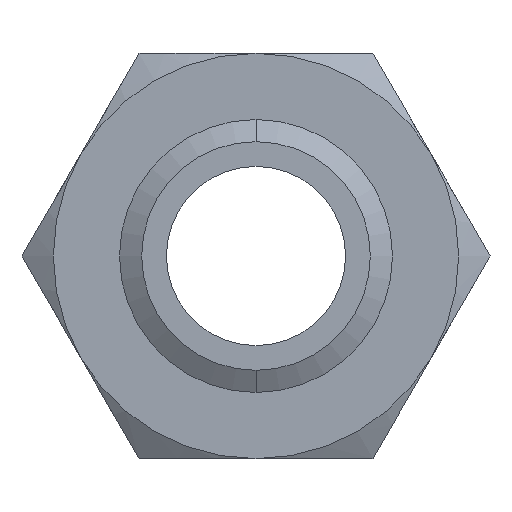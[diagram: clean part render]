
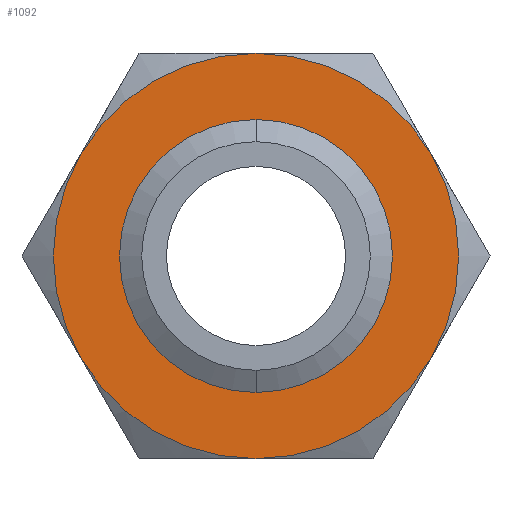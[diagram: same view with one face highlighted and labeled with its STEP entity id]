
A CAD part, front view. The second image highlights one B-rep face of the part: STEP entity #1092.
In plain terms, the highlighted planar face has unit normal (0, -1, 0).
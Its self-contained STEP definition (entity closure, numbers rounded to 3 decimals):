
#238 = EDGE_CURVE ( 'NONE', #239, #240, #823, .T. ) ;
#239 = VERTEX_POINT ( 'NONE', #818 ) ;
#240 = VERTEX_POINT ( 'NONE', #817 ) ;
#817 = CARTESIAN_POINT ( 'NONE',  ( 0., 0., 26.804 ) ) ;
#818 = CARTESIAN_POINT ( 'NONE',  ( 0., 0., -26.804 ) ) ;
#819 = DIRECTION ( 'NONE',  ( 0., 0., -1. ) ) ;
#820 = DIRECTION ( 'NONE',  ( 0., -1., 0. ) ) ;
#821 = CARTESIAN_POINT ( 'NONE',  ( 0., 0., 0. ) ) ;
#822 = AXIS2_PLACEMENT_3D ( 'NONE', #821, #820, #819 ) ;
#823 = CIRCLE ( 'NONE', #822, 26.804 ) ;
#950 = DIRECTION ( 'NONE',  ( 0., 0., 1. ) ) ;
#951 = DIRECTION ( 'NONE',  ( 0., 1., 0. ) ) ;
#952 = CARTESIAN_POINT ( 'NONE',  ( 0., 0., 0. ) ) ;
#953 = AXIS2_PLACEMENT_3D ( 'NONE', #952, #951, #950 ) ;
#954 = CIRCLE ( 'NONE', #953, 47.5 ) ;
#955 = CARTESIAN_POINT ( 'NONE',  ( 0., 0., 47.5 ) ) ;
#956 = CARTESIAN_POINT ( 'NONE',  ( -41.136, 0., -23.75 ) ) ;
#961 = DIRECTION ( 'NONE',  ( 0., 0., 1. ) ) ;
#962 = DIRECTION ( 'NONE',  ( 0., 1., 0. ) ) ;
#963 = CARTESIAN_POINT ( 'NONE',  ( 0., 0., 0. ) ) ;
#964 = AXIS2_PLACEMENT_3D ( 'NONE', #963, #962, #961 ) ;
#965 = CIRCLE ( 'NONE', #964, 47.5 ) ;
#969 = CARTESIAN_POINT ( 'NONE',  ( -41.136, 0., 23.75 ) ) ;
#988 = DIRECTION ( 'NONE',  ( 0., 0., 1. ) ) ;
#989 = DIRECTION ( 'NONE',  ( 0., 1., 0. ) ) ;
#990 = CARTESIAN_POINT ( 'NONE',  ( 27.424, 0., -47.5 ) ) ;
#992 = AXIS2_PLACEMENT_3D ( 'NONE', #990, #989, #988 ) ;
#993 = PLANE ( 'NONE',  #992 ) ;
#994 = FACE_BOUND ( 'NONE', #2252, .T. ) ;
#995 = FACE_OUTER_BOUND ( 'NONE', #1083, .T. ) ;
#1006 = DIRECTION ( 'NONE',  ( 0., 0., 1. ) ) ;
#1007 = DIRECTION ( 'NONE',  ( 0., 1., 0. ) ) ;
#1008 = CARTESIAN_POINT ( 'NONE',  ( 0., 0., 0. ) ) ;
#1009 = AXIS2_PLACEMENT_3D ( 'NONE', #1008, #1007, #1006 ) ;
#1010 = CIRCLE ( 'NONE', #1009, 47.5 ) ;
#1011 = CARTESIAN_POINT ( 'NONE',  ( 41.136, 0., 23.75 ) ) ;
#1073 = ORIENTED_EDGE ( 'NONE', *, *, #1076, .F. ) ;
#1074 = ORIENTED_EDGE ( 'NONE', *, *, #1080, .F. ) ;
#1075 = VERTEX_POINT ( 'NONE', #969 ) ;
#1076 = EDGE_CURVE ( 'NONE', #1079, #1075, #965, .T. ) ;
#1079 = VERTEX_POINT ( 'NONE', #956 ) ;
#1080 = EDGE_CURVE ( 'NONE', #1075, #1081, #954, .T. ) ;
#1081 = VERTEX_POINT ( 'NONE', #955 ) ;
#1082 = VERTEX_POINT ( 'NONE', #1011 ) ;
#1083 = EDGE_LOOP ( 'NONE', ( #1085, #1074, #1073, #2218, #2250, #2248 ) ) ;
#1084 = EDGE_CURVE ( 'NONE', #1081, #1082, #1010, .T. ) ;
#1085 = ORIENTED_EDGE ( 'NONE', *, *, #1084, .F. ) ;
#1092 = ADVANCED_FACE ( 'NONE', ( #995, #994 ), #993, .F. ) ;
#1553 = DIRECTION ( 'NONE',  ( 0., 0., 1. ) ) ;
#1554 = DIRECTION ( 'NONE',  ( 0., 1., 0. ) ) ;
#1555 = CARTESIAN_POINT ( 'NONE',  ( 0., 0., 0. ) ) ;
#1556 = AXIS2_PLACEMENT_3D ( 'NONE', #1555, #1554, #1553 ) ;
#1557 = CIRCLE ( 'NONE', #1556, 47.5 ) ;
#1602 = DIRECTION ( 'NONE',  ( 0., 0., 1. ) ) ;
#1603 = DIRECTION ( 'NONE',  ( 0., 1., 0. ) ) ;
#1604 = CARTESIAN_POINT ( 'NONE',  ( 0., 0., 0. ) ) ;
#1605 = AXIS2_PLACEMENT_3D ( 'NONE', #1604, #1603, #1602 ) ;
#1606 = CIRCLE ( 'NONE', #1605, 47.5 ) ;
#1665 = DIRECTION ( 'NONE',  ( 0., 0., -1. ) ) ;
#1666 = DIRECTION ( 'NONE',  ( 0., -1., 0. ) ) ;
#1667 = CARTESIAN_POINT ( 'NONE',  ( 0., 0., 0. ) ) ;
#1668 = AXIS2_PLACEMENT_3D ( 'NONE', #1667, #1666, #1665 ) ;
#1669 = CIRCLE ( 'NONE', #1668, 26.804 ) ;
#1670 = CARTESIAN_POINT ( 'NONE',  ( 41.136, 0., -23.75 ) ) ;
#1671 = DIRECTION ( 'NONE',  ( 0., 0., 1. ) ) ;
#1672 = DIRECTION ( 'NONE',  ( 0., 1., 0. ) ) ;
#1673 = CARTESIAN_POINT ( 'NONE',  ( 0., 0., 0. ) ) ;
#1674 = AXIS2_PLACEMENT_3D ( 'NONE', #1673, #1672, #1671 ) ;
#1675 = CIRCLE ( 'NONE', #1674, 47.5 ) ;
#1677 = CARTESIAN_POINT ( 'NONE',  ( 0., 0., -47.5 ) ) ;
#2218 = ORIENTED_EDGE ( 'NONE', *, *, #2220, .F. ) ;
#2220 = EDGE_CURVE ( 'NONE', #2268, #1079, #1557, .T. ) ;
#2248 = ORIENTED_EDGE ( 'NONE', *, *, #2254, .F. ) ;
#2250 = ORIENTED_EDGE ( 'NONE', *, *, #2269, .F. ) ;
#2251 = ORIENTED_EDGE ( 'NONE', *, *, #238, .F. ) ;
#2252 = EDGE_LOOP ( 'NONE', ( #2251, #2255 ) ) ;
#2254 = EDGE_CURVE ( 'NONE', #1082, #2270, #1606, .T. ) ;
#2255 = ORIENTED_EDGE ( 'NONE', *, *, #2271, .F. ) ;
#2268 = VERTEX_POINT ( 'NONE', #1677 ) ;
#2269 = EDGE_CURVE ( 'NONE', #2270, #2268, #1675, .T. ) ;
#2270 = VERTEX_POINT ( 'NONE', #1670 ) ;
#2271 = EDGE_CURVE ( 'NONE', #240, #239, #1669, .T. ) ;
